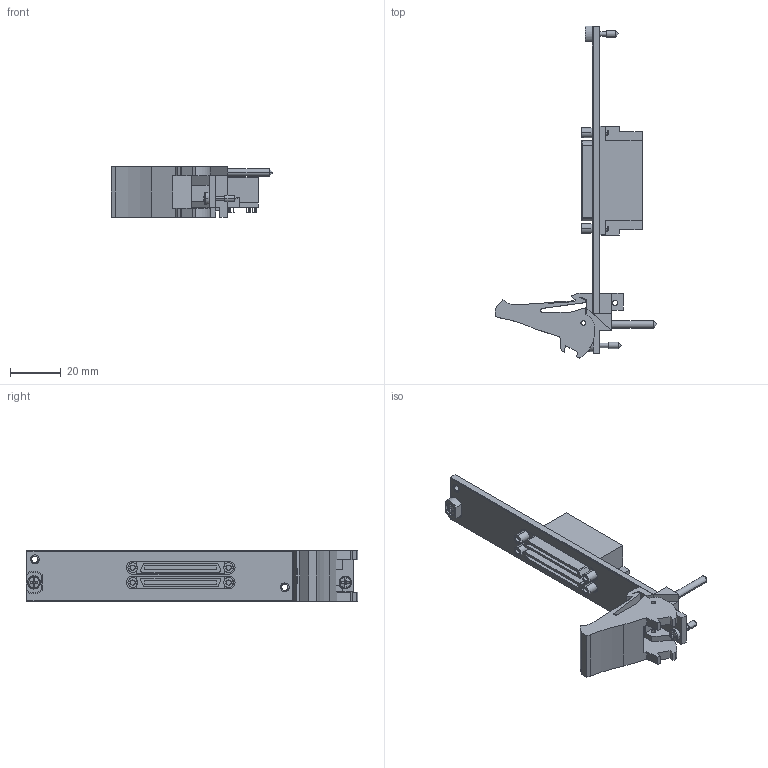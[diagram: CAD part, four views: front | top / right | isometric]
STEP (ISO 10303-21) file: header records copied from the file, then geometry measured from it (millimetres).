
FILE_DESCRIPTION((''),'2;1');
FILE_NAME('CU_PXI-MOD-2X-68POS-VHDCI','2008-05-08T',('chrisj'),(''),'PRO/ENGINEER BY PARAMETRIC TECHNOLOGY CORPORATION, 2006300','PRO/ENGINEER BY PARAMETRIC TECHNOLOGY CORPORATION, 2006300','');
FILE_SCHEMA(('AUTOMOTIVE_DESIGN_CC2 { 1 2 10303 214 -1 1 5 2 }'));
Length unit declared in the file: inch
Products named in the file (1): CU_PXI-MOD-2X-68POS-VHDCI
Bounding box: 63.53 x 130.5 x 20.02 mm (x, y, z)
Volume: 21822.3 mm3; surface area: 16070.5 mm2
Topology: 1 solids, 1 shells, 495 faces, 1293 edges, 841 vertices
Faces by surface type: plane 311, cylinder 158, cone 18, torus 4, sphere 4
Entity records: 15475 total; most frequent: CARTESIAN_POINT 2844, DIRECTION 2672, ORIENTED_EDGE 2578, EDGE_CURVE 1289, AXIS2_PLACEMENT_3D 909, VECTOR 854, LINE 854, VERTEX_POINT 841
